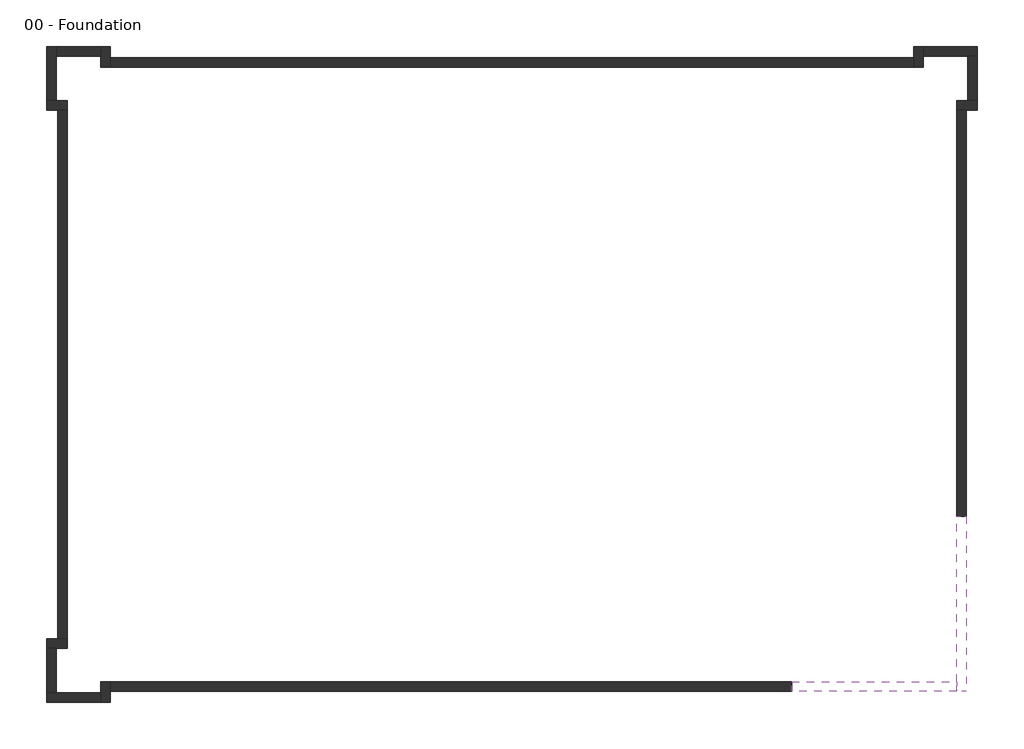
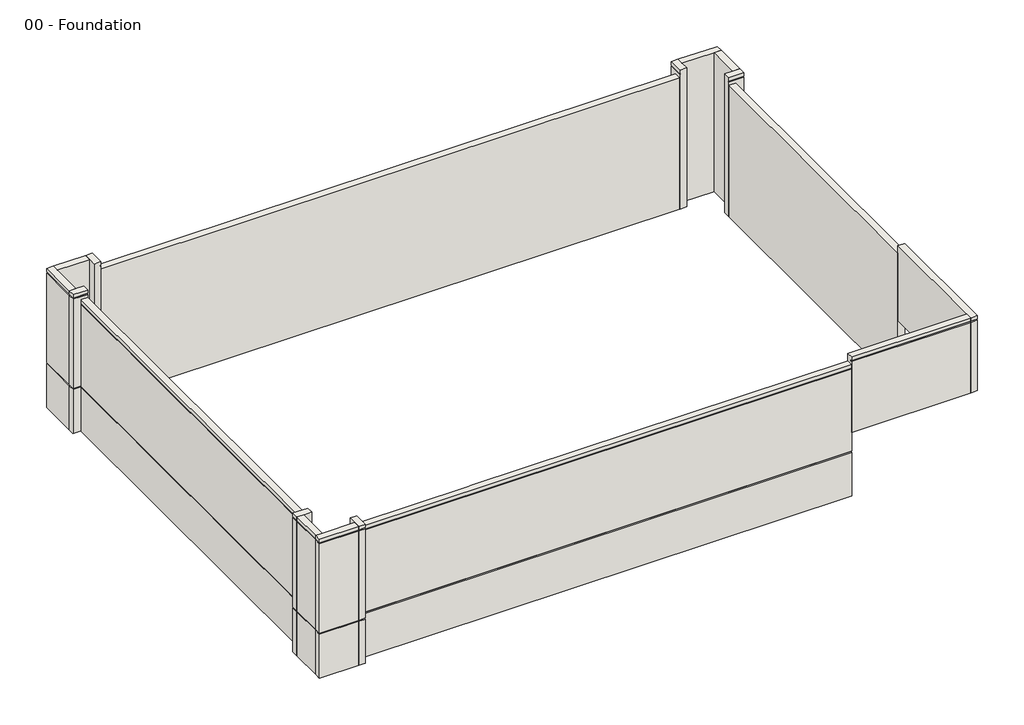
# One storey: 18 walls.
"""IFC4 building model written with IfcOpenShell, lengths in millimetres."""

from ifc_helpers import new_model, si_unit, frame, origin, place, context, project, spatial, polyline, outline, extrude, faceted_brep, element, save

model = new_model("IFC4")

# Units and contexts
model_context = context("Model", 3, world=origin())
ifc_project = project(units=[si_unit("LENGTHUNIT", "METRE", prefix="MILLI")], contexts=[model_context])

# Site, building, storey
site = spatial("IfcSite", under=ifc_project)
building = spatial("IfcBuilding", under=site)
storey = spatial("IfcBuildingStorey", under=building, Name="00 - Foundation", Elevation=-1250.0)

# Walls
placement = place(None, origin())
element("IfcWall", 1, ObjectType="Exterior - Render on Brick on Block @ Entry", at=placement, inside=storey, context=model_context, shape_type="Brep", body=[
    faceted_brep([(18351.5272279, -6481.9313057, 3000.0), (18351.5272279, -13977.9313057, 3000.0), (18351.5272279, -14406.9313057, 3000.0), (18351.5272279, -14406.9313057, 7700.0), (18351.5272279, -14331.9313057, 7700.0), (18351.5272279, -14331.9313057, 7775.0), (18351.5272279, -14406.9313057, 7775.0), (18351.5272279, -14406.9313057, 8000.0), (18351.5272279, -13977.9313057, 8000.0), (18351.5272279, -6481.9313057, 8000.0), (18351.5272279, -6481.9313057, 7500.0), (18780.5272279, -14406.9313057, 3000.0), (18780.5272279, -6481.9313057, 3000.0), (18780.5272279, -6481.9313057, 7200.0), (18780.5272279, -6481.9313057, 7275.0), (18780.5272279, -6481.9313057, 7500.0), (18780.5272279, -6481.9313057, 7700.0), (18780.5272279, -14406.9313057, 7700.0), (18780.5272279, -6481.9313057, 8000.0), (18780.5272279, -14406.9313057, 8000.0), (18780.5272279, -14406.9313057, 7775.0), (18780.5272279, -6481.9313057, 7775.0), (18705.5272279, -6481.9313057, 7775.0), (18705.5272279, -6481.9313057, 7700.0), (18705.5272279, -14331.9313057, 7775.0), (18705.5272279, -14331.9313057, 7700.0)], [[[0, 1, 2, 3, 4, 5, 6, 7, 8, 9, 10]], [[11, 12, 13, 14, 15, 16, 17]], [[18, 19, 20, 21]], [[2, 1, 0, 12, 11]], [[9, 8, 7, 19, 18]], [[0, 10, 9, 18, 21, 22, 23, 16, 15, 14, 13, 12]], [[24, 22, 21, 20, 6, 5]], [[23, 25, 4, 3, 17, 16]], [[22, 24, 25, 23]], [[2, 11, 17, 3]], [[19, 7, 6, 20]], [[25, 24, 5, 4]]]),
])
element("IfcWall", 2, ObjectType="Exterior - Render on Brick on Block @ Entry", at=placement, inside=storey, context=model_context, shape_type="Brep", body=[
    faceted_brep([(18351.5272279, -13977.9313057, 3000.0), (10855.5272279, -13977.9313057, 3000.0), (10855.5272279, -13977.9313057, 7500.0), (10855.5272279, -13977.9313057, 8000.0), (18351.5272279, -13977.9313057, 8000.0), (10855.5272279, -14406.9313057, 3000.0), (18351.5272279, -14406.9313057, 3000.0), (18351.5272279, -14406.9313057, 7700.0), (10855.5272279, -14406.9313057, 7700.0), (10855.5272279, -14406.9313057, 7500.0), (10855.5272279, -14406.9313057, 7275.0), (10855.5272279, -14406.9313057, 7200.0), (18351.5272279, -14406.9313057, 8000.0), (10855.5272279, -14406.9313057, 8000.0), (10855.5272279, -14406.9313057, 7775.0), (18351.5272279, -14406.9313057, 7775.0), (10855.5272279, -14331.9313057, 7700.0), (10855.5272279, -14331.9313057, 7775.0), (18351.5272279, -14331.9313057, 7700.0), (18351.5272279, -14331.9313057, 7775.0)], [[[0, 1, 2, 3, 4]], [[5, 6, 7, 8, 9, 10, 11]], [[12, 13, 14, 15]], [[1, 0, 6, 5]], [[3, 2, 1, 5, 11, 10, 9, 8, 16, 17, 14, 13]], [[4, 3, 13, 12]], [[16, 18, 19, 17]], [[0, 4, 12, 15, 19, 18, 7, 6]], [[17, 19, 15, 14]], [[18, 16, 8, 7]]]),
])
element("IfcWall", 3, ObjectType="Exterior - Render on Brick on Block", at=placement, inside=storey, context=model_context, shape_type="Brep", body=[
    faceted_brep([(10855.5272279, -13977.9313057, -1250.0), (-20031.4727721, -13977.9313057, -1250.0), (-20031.4727721, -13977.9313057, 7500.0), (-12988.7227721, -13977.9313057, 7500.0), (-12850.2227721, -13977.9313057, 7500.0), (10855.5272279, -13977.9313057, 7500.0), (10855.5272279, -13977.9313057, 3000.0), (10855.5272279, -14406.9313057, 7500.0), (-20031.4727721, -14406.9313057, 7500.0), (-20031.4727721, -14406.9313057, 7275.0), (10855.5272279, -14406.9313057, 7275.0), (-20031.4727721, -14406.9313057, -1250.0), (10855.5272279, -14406.9313057, -1250.0), (10855.5272279, -14406.9313057, 1675.0), (-20031.4727721, -14406.9313057, 1675.0), (-20031.4727721, -14406.9313057, 1750.0), (10855.5272279, -14406.9313057, 1750.0), (10855.5272279, -14406.9313057, 7200.0), (-20031.4727721, -14406.9313057, 7200.0), (10855.5272279, -14331.9313057, 7275.0), (10855.5272279, -14331.9313057, 7200.0), (10855.5272279, -14331.9313057, 1750.0), (10855.5272279, -14331.9313057, 1675.0), (10855.5272279, -14381.9313057, -1250.0), (-20031.4727721, -14381.9313057, -1250.0), (-20031.4727721, -14331.9313057, 1750.0), (-20031.4727721, -14331.9313057, 1675.0), (-20031.4727721, -14331.9313057, 7275.0), (-20031.4727721, -14331.9313057, 7200.0)], [[[0, 1, 2, 3, 4, 5, 6]], [[7, 8, 9, 10]], [[11, 12, 13, 14]], [[15, 16, 17, 18]], [[5, 4, 3, 2, 8, 7]], [[0, 6, 5, 7, 10, 19, 20, 17, 16, 21, 22, 13, 12, 23]], [[1, 0, 23, 24]], [[23, 12, 11, 24]], [[16, 15, 25, 21]], [[14, 13, 22, 26]], [[22, 21, 25, 26]], [[27, 19, 10, 9]], [[20, 28, 18, 17]], [[19, 27, 28, 20]], [[2, 1, 24, 11, 14, 26, 25, 15, 18, 28, 27, 9, 8]]]),
])
element("IfcWall", 4, ObjectType="Exterior - Render on Brick on Block", at=placement, inside=storey, context=model_context, shape_type="Brep", body=[
    faceted_brep([(-20460.4727721, -13977.9313057, -1250.0), (-20460.4727721, -14477.7313057, -1250.0), (-20460.4727721, -14906.7313057, -1250.0), (-20460.4727721, -14906.7313057, 1675.0), (-20460.4727721, -14831.7313057, 1675.0), (-20460.4727721, -14831.7313057, 1750.0), (-20460.4727721, -14906.7313057, 1750.0), (-20460.4727721, -14906.7313057, 7700.0), (-20460.4727721, -14831.7313057, 7700.0), (-20460.4727721, -14831.7313057, 7775.0), (-20460.4727721, -14906.7313057, 7775.0), (-20460.4727721, -14906.7313057, 8000.0), (-20460.4727721, -14477.7313057, 8000.0), (-20460.4727721, -13977.9313057, 8000.0), (-20031.4727721, -13977.9313057, 8000.0), (-20031.4727721, -14906.7313057, 8000.0), (-20031.4727721, -14906.7313057, 7775.0), (-20031.4727721, -13977.9313057, 7775.0), (-20031.4727721, -14906.7313057, -1250.0), (-20031.4727721, -14406.9313057, -1250.0), (-20031.4727721, -13977.9313057, -1250.0), (-20031.4727721, -13977.9313057, 7500.0), (-20031.4727721, -13977.9313057, 7700.0), (-20031.4727721, -14906.7313057, 7700.0), (-20031.4727721, -14906.7313057, 1750.0), (-20031.4727721, -14406.9313057, 1750.0), (-20031.4727721, -14331.9313057, 1750.0), (-20031.4727721, -14331.9313057, 1675.0), (-20031.4727721, -14406.9313057, 1675.0), (-20031.4727721, -14906.7313057, 1675.0), (-20056.4727721, -13977.9313057, -1250.0), (-20056.4727721, -14906.7313057, -1250.0), (-20106.4727721, -14331.9313057, 1675.0), (-20106.4727721, -14331.9313057, 1750.0), (-20106.4727721, -14831.7313057, 1750.0), (-20106.4727721, -14831.7313057, 1675.0), (-20106.4727721, -14831.7313057, 7775.0), (-20106.4727721, -13977.9313057, 7775.0), (-20106.4727721, -13977.9313057, 7700.0), (-20106.4727721, -14831.7313057, 7700.0)], [[[0, 1, 2, 3, 4, 5, 6, 7, 8, 9, 10, 11, 12, 13]], [[14, 15, 16, 17]], [[18, 19, 20, 21, 22, 23, 24, 25, 26, 27, 28, 29]], [[13, 12, 11, 15, 14]], [[2, 1, 0, 30, 31]], [[32, 33, 34, 35]], [[36, 37, 17, 16, 10, 9]], [[38, 39, 8, 7, 23, 22]], [[37, 36, 39, 38]], [[0, 13, 14, 17, 37, 38, 22, 21, 20, 30]], [[20, 19, 18, 31, 30]], [[34, 33, 26, 25, 24, 6, 5]], [[32, 35, 4, 3, 29, 28, 27]], [[33, 32, 27, 26]], [[15, 11, 10, 16]], [[2, 31, 18, 29, 3]], [[6, 24, 23, 7]], [[35, 34, 5, 4]], [[39, 36, 9, 8]]]),
])
element("IfcWall", 5, ObjectType="Exterior - Render on Brick on Block", at=placement, inside=storey, context=model_context, shape_type="Brep", body=[
    faceted_brep([(-20460.4727721, -14477.7313057, -1250.0), (-22490.4727721, -14477.7313057, -1250.0), (-22919.4727721, -14477.7313057, -1250.0), (-22919.4727721, -14477.7313057, 1675.0), (-22844.4727721, -14477.7313057, 1675.0), (-22844.4727721, -14477.7313057, 1750.0), (-22919.4727721, -14477.7313057, 1750.0), (-22919.4727721, -14477.7313057, 7700.0), (-22844.4727721, -14477.7313057, 7700.0), (-22844.4727721, -14477.7313057, 7775.0), (-22919.4727721, -14477.7313057, 7775.0), (-22919.4727721, -14477.7313057, 8000.0), (-22490.4727721, -14477.7313057, 8000.0), (-20460.4727721, -14477.7313057, 8000.0), (-20460.4727721, -14906.7313057, 8000.0), (-22919.4727721, -14906.7313057, 8000.0), (-22919.4727721, -14906.7313057, 7775.0), (-20460.4727721, -14906.7313057, 7775.0), (-22919.4727721, -14906.7313057, -1250.0), (-20460.4727721, -14906.7313057, -1250.0), (-20460.4727721, -14906.7313057, 1675.0), (-22919.4727721, -14906.7313057, 1675.0), (-22919.4727721, -14906.7313057, 1750.0), (-20460.4727721, -14906.7313057, 1750.0), (-20460.4727721, -14906.7313057, 7700.0), (-22919.4727721, -14906.7313057, 7700.0), (-20460.4727721, -14881.7313057, -1250.0), (-22919.4727721, -14881.7313057, -1250.0), (-22844.4727721, -14831.7313057, 1675.0), (-20460.4727721, -14831.7313057, 1675.0), (-20460.4727721, -14831.7313057, 1750.0), (-22844.4727721, -14831.7313057, 1750.0), (-22844.4727721, -14831.7313057, 7775.0), (-22844.4727721, -14831.7313057, 7700.0), (-20460.4727721, -14831.7313057, 7700.0), (-20460.4727721, -14831.7313057, 7775.0)], [[[0, 1, 2, 3, 4, 5, 6, 7, 8, 9, 10, 11, 12, 13]], [[14, 15, 16, 17]], [[18, 19, 20, 21]], [[22, 23, 24, 25]], [[13, 12, 11, 15, 14]], [[2, 1, 0, 26, 27]], [[28, 29, 30, 31]], [[32, 33, 34, 35]], [[0, 13, 14, 17, 35, 34, 24, 23, 30, 29, 20, 19, 26]], [[19, 18, 27, 26]], [[31, 30, 23, 22, 6, 5]], [[29, 28, 4, 3, 21, 20]], [[9, 32, 35, 17, 16, 10]], [[34, 33, 8, 7, 25, 24]], [[15, 11, 10, 16]], [[2, 27, 18, 21, 3]], [[6, 22, 25, 7]], [[28, 31, 5, 4]], [[33, 32, 9, 8]]]),
])
element("IfcWall", 6, ObjectType="Exterior - Render on Brick on Block", at=placement, inside=storey, context=model_context, shape_type="SweptSolid", body=[
    extrude(outline(polyline([(-1250.0, -22490.4727721), (8000.0, -22490.4727721), (8000.0, -22919.4727721), (7775.0, -22919.4727721), (7775.0, -22844.4727721), (7700.0, -22844.4727721), (7700.0, -22919.4727721), (1750.0, -22919.4727721), (1750.0, -22844.4727721), (1675.0, -22844.4727721), (1675.0, -22919.4727721), (-1250.0, -22919.4727721), (-1250.0, -22894.4727721), (-1250.0, -22490.4727721)])), frame((0.0, -14477.7313057, 0.0), z_axis=(0.0, 1.0, 0.0), x_axis=(0.0, 0.0, 1.0)), (0.0, 0.0, 1.0), 2030.0),
])
element("IfcWall", 7, ObjectType="Exterior - Render on Brick on Block", at=placement, inside=storey, context=model_context, shape_type="Brep", body=[
    faceted_brep([(-22919.4727721, -12447.7313057, -1250.0), (-22490.4727721, -12447.7313057, -1250.0), (-21990.4727721, -12447.7313057, -1250.0), (-21990.4727721, -12447.7313057, 8000.0), (-22490.4727721, -12447.7313057, 8000.0), (-22919.4727721, -12447.7313057, 8000.0), (-22919.4727721, -12447.7313057, 7775.0), (-22844.4727721, -12447.7313057, 7775.0), (-22844.4727721, -12447.7313057, 7700.0), (-22919.4727721, -12447.7313057, 7700.0), (-22919.4727721, -12447.7313057, 1750.0), (-22844.4727721, -12447.7313057, 1750.0), (-22844.4727721, -12447.7313057, 1675.0), (-22919.4727721, -12447.7313057, 1675.0), (-22919.4727721, -12018.7313057, 8000.0), (-21990.4727721, -12018.7313057, 8000.0), (-21990.4727721, -12018.7313057, 7775.0), (-22919.4727721, -12018.7313057, 7775.0), (-21990.4727721, -12018.7313057, -1250.0), (-22419.4727721, -12018.7313057, -1250.0), (-22919.4727721, -12018.7313057, -1250.0), (-22919.4727721, -12018.7313057, 1675.0), (-22419.4727721, -12018.7313057, 1675.0), (-22344.4727721, -12018.7313057, 1675.0), (-22344.4727721, -12018.7313057, 1750.0), (-22419.4727721, -12018.7313057, 1750.0), (-22919.4727721, -12018.7313057, 1750.0), (-22919.4727721, -12018.7313057, 7700.0), (-21990.4727721, -12018.7313057, 7700.0), (-21990.4727721, -12018.7313057, 7500.0), (-22919.4727721, -12043.7313057, -1250.0), (-21990.4727721, -12043.7313057, -1250.0), (-22844.4727721, -12093.7313057, 1675.0), (-22844.4727721, -12093.7313057, 1750.0), (-22344.4727721, -12093.7313057, 1750.0), (-22344.4727721, -12093.7313057, 1675.0), (-22844.4727721, -12093.7313057, 7775.0), (-21990.4727721, -12093.7313057, 7775.0), (-21990.4727721, -12093.7313057, 7700.0), (-22844.4727721, -12093.7313057, 7700.0)], [[[0, 1, 2, 3, 4, 5, 6, 7, 8, 9, 10, 11, 12, 13]], [[14, 15, 16, 17]], [[18, 19, 20, 21, 22, 23, 24, 25, 26, 27, 28, 29]], [[5, 4, 3, 15, 14]], [[2, 1, 0, 30, 31]], [[32, 33, 34, 35]], [[36, 37, 38, 39]], [[5, 14, 17, 6]], [[30, 0, 13, 21, 20]], [[26, 10, 9, 27]], [[20, 19, 18, 31, 30]], [[34, 33, 11, 10, 26, 25, 24]], [[32, 35, 23, 22, 21, 13, 12]], [[33, 32, 12, 11]], [[37, 36, 7, 6, 17, 16]], [[39, 38, 28, 27, 9, 8]], [[36, 39, 8, 7]], [[3, 2, 31, 18, 29, 28, 38, 37, 16, 15]], [[35, 34, 24, 23]]]),
])
element("IfcWall", 8, ObjectType="Exterior - Render on Brick on Block", at=placement, inside=storey, context=model_context, shape_type="Brep", body=[
    faceted_brep([(-21990.4727721, -12018.7313057, -1250.0), (-21990.4727721, 11955.0686943, -1250.0), (-21990.4727721, 11955.0686943, 7500.0), (-21990.4727721, -3637.6813057, 7500.0), (-21990.4727721, -3776.1813057, 7500.0), (-21990.4727721, -9826.1813057, 7500.0), (-21990.4727721, -9964.6813057, 7500.0), (-21990.4727721, -12018.7313057, 7500.0), (-22419.4727721, -12018.7313057, 7500.0), (-22419.4727721, 11955.0686943, 7500.0), (-22419.4727721, 11955.0686943, 7275.0), (-22419.4727721, -12018.7313057, 7275.0), (-22419.4727721, 11955.0686943, -1250.0), (-22419.4727721, -12018.7313057, -1250.0), (-22419.4727721, -12018.7313057, 1675.0), (-22419.4727721, 11955.0686943, 1675.0), (-22419.4727721, 11955.0686943, 1750.0), (-22419.4727721, -12018.7313057, 1750.0), (-22419.4727721, -12018.7313057, 7200.0), (-22419.4727721, 11955.0686943, 7200.0), (-22394.4727721, -12018.7313057, -1250.0), (-22394.4727721, 11955.0686943, -1250.0), (-22344.4727721, -12018.7313057, 1675.0), (-22344.4727721, -12018.7313057, 1750.0), (-22344.4727721, 11955.0686943, 1750.0), (-22344.4727721, 11955.0686943, 1675.0), (-22344.4727721, 11955.0686943, 7275.0), (-22344.4727721, -12018.7313057, 7275.0), (-22344.4727721, -12018.7313057, 7200.0), (-22344.4727721, 11955.0686943, 7200.0)], [[[0, 1, 2, 3, 4, 5, 6, 7]], [[8, 9, 10, 11]], [[12, 13, 14, 15]], [[16, 17, 18, 19]], [[7, 6, 5, 4, 3, 2, 9, 8]], [[1, 0, 20, 21]], [[22, 23, 24, 25]], [[26, 27, 11, 10]], [[28, 29, 19, 18]], [[27, 26, 29, 28]], [[0, 7, 8, 11, 27, 28, 18, 17, 23, 22, 14, 13, 20]], [[13, 12, 21, 20]], [[17, 16, 24, 23]], [[15, 14, 22, 25]], [[2, 1, 21, 12, 15, 25, 24, 16, 19, 29, 26, 10, 9]]]),
])
element("IfcWall", 9, ObjectType="Exterior - Render on Brick on Block", at=placement, inside=storey, context=model_context, shape_type="Brep", body=[
    faceted_brep([(-21990.4727721, 12384.0686943, -1250.0), (-22490.4727721, 12384.0686943, -1250.0), (-22919.4727721, 12384.0686943, -1250.0), (-22919.4727721, 12384.0686943, 1675.0), (-22844.4727721, 12384.0686943, 1675.0), (-22844.4727721, 12384.0686943, 1750.0), (-22919.4727721, 12384.0686943, 1750.0), (-22919.4727721, 12384.0686943, 7700.0), (-22844.4727721, 12384.0686943, 7700.0), (-22844.4727721, 12384.0686943, 7775.0), (-22919.4727721, 12384.0686943, 7775.0), (-22919.4727721, 12384.0686943, 8000.0), (-22490.4727721, 12384.0686943, 8000.0), (-21990.4727721, 12384.0686943, 8000.0), (-21990.4727721, 11955.0686943, 8000.0), (-22919.4727721, 11955.0686943, 8000.0), (-22919.4727721, 11955.0686943, 7775.0), (-21990.4727721, 11955.0686943, 7775.0), (-22919.4727721, 11955.0686943, -1250.0), (-22419.4727721, 11955.0686943, -1250.0), (-21990.4727721, 11955.0686943, -1250.0), (-21990.4727721, 11955.0686943, 7500.0), (-21990.4727721, 11955.0686943, 7700.0), (-22919.4727721, 11955.0686943, 7700.0), (-22919.4727721, 11955.0686943, 1750.0), (-22419.4727721, 11955.0686943, 1750.0), (-22344.4727721, 11955.0686943, 1750.0), (-22344.4727721, 11955.0686943, 1675.0), (-22419.4727721, 11955.0686943, 1675.0), (-22919.4727721, 11955.0686943, 1675.0), (-21990.4727721, 11980.0686943, -1250.0), (-22919.4727721, 11980.0686943, -1250.0), (-22344.4727721, 12030.0686943, 1675.0), (-22344.4727721, 12030.0686943, 1750.0), (-22844.4727721, 12030.0686943, 1750.0), (-22844.4727721, 12030.0686943, 1675.0), (-22844.4727721, 12030.0686943, 7775.0), (-21990.4727721, 12030.0686943, 7775.0), (-21990.4727721, 12030.0686943, 7700.0), (-22844.4727721, 12030.0686943, 7700.0)], [[[0, 1, 2, 3, 4, 5, 6, 7, 8, 9, 10, 11, 12, 13]], [[14, 15, 16, 17]], [[18, 19, 20, 21, 22, 23, 24, 25, 26, 27, 28, 29]], [[13, 12, 11, 15, 14]], [[2, 1, 0, 30, 31]], [[32, 33, 34, 35]], [[36, 37, 17, 16, 10, 9]], [[38, 39, 8, 7, 23, 22]], [[37, 36, 39, 38]], [[0, 13, 14, 17, 37, 38, 22, 21, 20, 30]], [[20, 19, 18, 31, 30]], [[34, 33, 26, 25, 24, 6, 5]], [[32, 35, 4, 3, 29, 28, 27]], [[33, 32, 27, 26]], [[15, 11, 10, 16]], [[2, 31, 18, 29, 3]], [[6, 24, 23, 7]], [[35, 34, 5, 4]], [[39, 36, 9, 8]]]),
])
element("IfcWall", 10, ObjectType="Exterior - Render on Brick on Block", at=placement, inside=storey, context=model_context, shape_type="Brep", body=[
    faceted_brep([(-22490.4727721, 12384.0686943, -1250.0), (-22490.4727721, 14414.0686943, -1250.0), (-22490.4727721, 14843.0686943, -1250.0), (-22490.4727721, 14843.0686943, 1675.0), (-22490.4727721, 14768.0686943, 1675.0), (-22490.4727721, 14768.0686943, 1750.0), (-22490.4727721, 14843.0686943, 1750.0), (-22490.4727721, 14843.0686943, 7700.0), (-22490.4727721, 14768.0686943, 7700.0), (-22490.4727721, 14768.0686943, 7775.0), (-22490.4727721, 14843.0686943, 7775.0), (-22490.4727721, 14843.0686943, 8000.0), (-22490.4727721, 14414.0686943, 8000.0), (-22490.4727721, 12384.0686943, 8000.0), (-22919.4727721, 12384.0686943, 8000.0), (-22919.4727721, 14843.0686943, 8000.0), (-22919.4727721, 14843.0686943, 7775.0), (-22919.4727721, 12384.0686943, 7775.0), (-22919.4727721, 14843.0686943, -1250.0), (-22919.4727721, 12384.0686943, -1250.0), (-22919.4727721, 12384.0686943, 1675.0), (-22919.4727721, 14843.0686943, 1675.0), (-22919.4727721, 14843.0686943, 1750.0), (-22919.4727721, 12384.0686943, 1750.0), (-22919.4727721, 12384.0686943, 7700.0), (-22919.4727721, 14843.0686943, 7700.0), (-22894.4727721, 12384.0686943, -1250.0), (-22894.4727721, 14843.0686943, -1250.0), (-22844.4727721, 14768.0686943, 1675.0), (-22844.4727721, 12384.0686943, 1675.0), (-22844.4727721, 12384.0686943, 1750.0), (-22844.4727721, 14768.0686943, 1750.0), (-22844.4727721, 14768.0686943, 7775.0), (-22844.4727721, 14768.0686943, 7700.0), (-22844.4727721, 12384.0686943, 7700.0), (-22844.4727721, 12384.0686943, 7775.0)], [[[0, 1, 2, 3, 4, 5, 6, 7, 8, 9, 10, 11, 12, 13]], [[14, 15, 16, 17]], [[18, 19, 20, 21]], [[22, 23, 24, 25]], [[13, 12, 11, 15, 14]], [[2, 1, 0, 26, 27]], [[28, 29, 30, 31]], [[32, 33, 34, 35]], [[0, 13, 14, 17, 35, 34, 24, 23, 30, 29, 20, 19, 26]], [[19, 18, 27, 26]], [[31, 30, 23, 22, 6, 5]], [[29, 28, 4, 3, 21, 20]], [[9, 32, 35, 17, 16, 10]], [[34, 33, 8, 7, 25, 24]], [[15, 11, 10, 16]], [[2, 27, 18, 21, 3]], [[6, 22, 25, 7]], [[28, 31, 5, 4]], [[33, 32, 9, 8]]]),
])
element("IfcWall", 11, ObjectType="Exterior - Render on Brick on Block", at=placement, inside=storey, context=model_context, shape_type="SweptSolid", body=[
    extrude(outline(polyline([(14414.0686943, -1250.0), (14414.0686943, 8000.0), (14843.0686943, 8000.0), (14843.0686943, 7775.0), (14768.0686943, 7775.0), (14768.0686943, 7700.0), (14843.0686943, 7700.0), (14843.0686943, 1750.0), (14768.0686943, 1750.0), (14768.0686943, 1675.0), (14843.0686943, 1675.0), (14843.0686943, -1250.0), (14818.0686943, -1250.0), (14414.0686943, -1250.0)])), frame((-22490.4727721, 0.0, 0.0), z_axis=(1.0, 0.0, 0.0), x_axis=(0.0, 1.0, 0.0)), (0.0, 0.0, 1.0), 2030.0),
])
element("IfcWall", 12, ObjectType="Exterior - Render on Brick on Block", at=placement, inside=storey, context=model_context, shape_type="Brep", body=[
    faceted_brep([(-20460.4727721, 14843.0686943, -1250.0), (-20460.4727721, 14414.0686943, -1250.0), (-20460.4727721, 13914.0686943, -1250.0), (-20460.4727721, 13914.0686943, 8000.0), (-20460.4727721, 14414.0686943, 8000.0), (-20460.4727721, 14843.0686943, 8000.0), (-20460.4727721, 14843.0686943, 7775.0), (-20460.4727721, 14768.0686943, 7775.0), (-20460.4727721, 14768.0686943, 7700.0), (-20460.4727721, 14843.0686943, 7700.0), (-20460.4727721, 14843.0686943, 1750.0), (-20460.4727721, 14768.0686943, 1750.0), (-20460.4727721, 14768.0686943, 1675.0), (-20460.4727721, 14843.0686943, 1675.0), (-20031.4727721, 14843.0686943, 8000.0), (-20031.4727721, 13914.0686943, 8000.0), (-20031.4727721, 13914.0686943, 7775.0), (-20031.4727721, 14843.0686943, 7775.0), (-20031.4727721, 13914.0686943, -1250.0), (-20031.4727721, 14343.0686943, -1250.0), (-20031.4727721, 14843.0686943, -1250.0), (-20031.4727721, 14843.0686943, 1675.0), (-20031.4727721, 14343.0686943, 1675.0), (-20031.4727721, 14268.0686943, 1675.0), (-20031.4727721, 14268.0686943, 1750.0), (-20031.4727721, 14343.0686943, 1750.0), (-20031.4727721, 14843.0686943, 1750.0), (-20031.4727721, 14843.0686943, 7700.0), (-20031.4727721, 13914.0686943, 7700.0), (-20031.4727721, 13914.0686943, 7500.0), (-20056.4727721, 14843.0686943, -1250.0), (-20056.4727721, 13914.0686943, -1250.0), (-20106.4727721, 14768.0686943, 1675.0), (-20106.4727721, 14768.0686943, 1750.0), (-20106.4727721, 14268.0686943, 1750.0), (-20106.4727721, 14268.0686943, 1675.0), (-20106.4727721, 14768.0686943, 7775.0), (-20106.4727721, 13914.0686943, 7775.0), (-20106.4727721, 13914.0686943, 7700.0), (-20106.4727721, 14768.0686943, 7700.0)], [[[0, 1, 2, 3, 4, 5, 6, 7, 8, 9, 10, 11, 12, 13]], [[14, 15, 16, 17]], [[18, 19, 20, 21, 22, 23, 24, 25, 26, 27, 28, 29]], [[5, 4, 3, 15, 14]], [[2, 1, 0, 30, 31]], [[32, 33, 34, 35]], [[36, 37, 38, 39]], [[5, 14, 17, 6]], [[30, 0, 13, 21, 20]], [[26, 10, 9, 27]], [[20, 19, 18, 31, 30]], [[34, 33, 11, 10, 26, 25, 24]], [[32, 35, 23, 22, 21, 13, 12]], [[33, 32, 12, 11]], [[37, 36, 7, 6, 17, 16]], [[39, 38, 28, 27, 9, 8]], [[36, 39, 8, 7]], [[3, 2, 31, 18, 29, 28, 38, 37, 16, 15]], [[35, 34, 24, 23]]]),
])
element("IfcWall", 13, ObjectType="Exterior - Render on Brick on Block", at=placement, inside=storey, context=model_context, shape_type="Brep", body=[
    faceted_brep([(-20031.4727721, 13914.0686943, -1250.0), (16392.5272279, 13914.0686943, -1250.0), (16392.5272279, 13914.0686943, 7500.0), (-14950.2227721, 13914.0686943, 7500.0), (-15088.7227721, 13914.0686943, 7500.0), (-20031.4727721, 13914.0686943, 7500.0), (-20031.4727721, 14343.0686943, 7500.0), (16392.5272279, 14343.0686943, 7500.0), (16392.5272279, 14343.0686943, 7275.0), (-20031.4727721, 14343.0686943, 7275.0), (16392.5272279, 14343.0686943, -1250.0), (-20031.4727721, 14343.0686943, -1250.0), (-20031.4727721, 14343.0686943, 1675.0), (16392.5272279, 14343.0686943, 1675.0), (16392.5272279, 14343.0686943, 1750.0), (-20031.4727721, 14343.0686943, 1750.0), (-20031.4727721, 14343.0686943, 7200.0), (16392.5272279, 14343.0686943, 7200.0), (-20031.4727721, 14318.0686943, -1250.0), (16392.5272279, 14318.0686943, -1250.0), (-20031.4727721, 14268.0686943, 1675.0), (-20031.4727721, 14268.0686943, 1750.0), (16392.5272279, 14268.0686943, 1750.0), (16392.5272279, 14268.0686943, 1675.0), (16392.5272279, 14268.0686943, 7275.0), (-20031.4727721, 14268.0686943, 7275.0), (-20031.4727721, 14268.0686943, 7200.0), (16392.5272279, 14268.0686943, 7200.0)], [[[0, 1, 2, 3, 4, 5]], [[6, 7, 8, 9]], [[10, 11, 12, 13]], [[14, 15, 16, 17]], [[5, 4, 3, 2, 7, 6]], [[1, 0, 18, 19]], [[20, 21, 22, 23]], [[24, 25, 9, 8]], [[26, 27, 17, 16]], [[25, 24, 27, 26]], [[0, 5, 6, 9, 25, 26, 16, 15, 21, 20, 12, 11, 18]], [[11, 10, 19, 18]], [[15, 14, 22, 21]], [[13, 12, 20, 23]], [[2, 1, 19, 10, 13, 23, 22, 14, 17, 27, 24, 8, 7]]]),
])
element("IfcWall", 14, ObjectType="Exterior - Render on Brick on Block", at=placement, inside=storey, context=model_context, shape_type="Brep", body=[
    faceted_brep([(16821.5272279, 13914.0686943, -1250.0), (16821.5272279, 14414.0686943, -1250.0), (16821.5272279, 14843.0686943, -1250.0), (16821.5272279, 14843.0686943, 1675.0), (16821.5272279, 14768.0686943, 1675.0), (16821.5272279, 14768.0686943, 1750.0), (16821.5272279, 14843.0686943, 1750.0), (16821.5272279, 14843.0686943, 7700.0), (16821.5272279, 14768.0686943, 7700.0), (16821.5272279, 14768.0686943, 7775.0), (16821.5272279, 14843.0686943, 7775.0), (16821.5272279, 14843.0686943, 8000.0), (16821.5272279, 14414.0686943, 8000.0), (16821.5272279, 13914.0686943, 8000.0), (16392.5272279, 13914.0686943, 8000.0), (16392.5272279, 14843.0686943, 8000.0), (16392.5272279, 14843.0686943, 7775.0), (16392.5272279, 13914.0686943, 7775.0), (16392.5272279, 14843.0686943, -1250.0), (16392.5272279, 14343.0686943, -1250.0), (16392.5272279, 13914.0686943, -1250.0), (16392.5272279, 13914.0686943, 7500.0), (16392.5272279, 13914.0686943, 7700.0), (16392.5272279, 14843.0686943, 7700.0), (16392.5272279, 14843.0686943, 1750.0), (16392.5272279, 14343.0686943, 1750.0), (16392.5272279, 14268.0686943, 1750.0), (16392.5272279, 14268.0686943, 1675.0), (16392.5272279, 14343.0686943, 1675.0), (16392.5272279, 14843.0686943, 1675.0), (16417.5272279, 13914.0686943, -1250.0), (16417.5272279, 14843.0686943, -1250.0), (16467.5272279, 14268.0686943, 1675.0), (16467.5272279, 14268.0686943, 1750.0), (16467.5272279, 14768.0686943, 1750.0), (16467.5272279, 14768.0686943, 1675.0), (16467.5272279, 14768.0686943, 7775.0), (16467.5272279, 13914.0686943, 7775.0), (16467.5272279, 13914.0686943, 7700.0), (16467.5272279, 14768.0686943, 7700.0)], [[[0, 1, 2, 3, 4, 5, 6, 7, 8, 9, 10, 11, 12, 13]], [[14, 15, 16, 17]], [[18, 19, 20, 21, 22, 23, 24, 25, 26, 27, 28, 29]], [[13, 12, 11, 15, 14]], [[2, 1, 0, 30, 31]], [[32, 33, 34, 35]], [[36, 37, 17, 16, 10, 9]], [[38, 39, 8, 7, 23, 22]], [[37, 36, 39, 38]], [[0, 13, 14, 17, 37, 38, 22, 21, 20, 30]], [[20, 19, 18, 31, 30]], [[34, 33, 26, 25, 24, 6, 5]], [[32, 35, 4, 3, 29, 28, 27]], [[33, 32, 27, 26]], [[15, 11, 10, 16]], [[2, 31, 18, 29, 3]], [[6, 24, 23, 7]], [[35, 34, 5, 4]], [[39, 36, 9, 8]]]),
])
element("IfcWall", 15, ObjectType="Exterior - Render on Brick on Block", at=placement, inside=storey, context=model_context, shape_type="Brep", body=[
    faceted_brep([(16821.5272279, 14414.0686943, -1250.0), (18851.5272279, 14414.0686943, -1250.0), (19280.5272279, 14414.0686943, -1250.0), (19280.5272279, 14414.0686943, 1675.0), (19205.5272279, 14414.0686943, 1675.0), (19205.5272279, 14414.0686943, 1750.0), (19280.5272279, 14414.0686943, 1750.0), (19280.5272279, 14414.0686943, 7700.0), (19205.5272279, 14414.0686943, 7700.0), (19205.5272279, 14414.0686943, 7775.0), (19280.5272279, 14414.0686943, 7775.0), (19280.5272279, 14414.0686943, 8000.0), (18851.5272279, 14414.0686943, 8000.0), (16821.5272279, 14414.0686943, 8000.0), (16821.5272279, 14843.0686943, 8000.0), (19280.5272279, 14843.0686943, 8000.0), (19280.5272279, 14843.0686943, 7775.0), (16821.5272279, 14843.0686943, 7775.0), (19280.5272279, 14843.0686943, -1250.0), (16821.5272279, 14843.0686943, -1250.0), (16821.5272279, 14843.0686943, 1675.0), (19280.5272279, 14843.0686943, 1675.0), (19280.5272279, 14843.0686943, 1750.0), (16821.5272279, 14843.0686943, 1750.0), (16821.5272279, 14843.0686943, 7700.0), (19280.5272279, 14843.0686943, 7700.0), (16821.5272279, 14818.0686943, -1250.0), (19280.5272279, 14818.0686943, -1250.0), (19205.5272279, 14768.0686943, 1675.0), (16821.5272279, 14768.0686943, 1675.0), (16821.5272279, 14768.0686943, 1750.0), (19205.5272279, 14768.0686943, 1750.0), (19205.5272279, 14768.0686943, 7775.0), (19205.5272279, 14768.0686943, 7700.0), (16821.5272279, 14768.0686943, 7700.0), (16821.5272279, 14768.0686943, 7775.0)], [[[0, 1, 2, 3, 4, 5, 6, 7, 8, 9, 10, 11, 12, 13]], [[14, 15, 16, 17]], [[18, 19, 20, 21]], [[22, 23, 24, 25]], [[13, 12, 11, 15, 14]], [[2, 1, 0, 26, 27]], [[28, 29, 30, 31]], [[32, 33, 34, 35]], [[0, 13, 14, 17, 35, 34, 24, 23, 30, 29, 20, 19, 26]], [[19, 18, 27, 26]], [[31, 30, 23, 22, 6, 5]], [[29, 28, 4, 3, 21, 20]], [[9, 32, 35, 17, 16, 10]], [[34, 33, 8, 7, 25, 24]], [[15, 11, 10, 16]], [[2, 27, 18, 21, 3]], [[6, 22, 25, 7]], [[28, 31, 5, 4]], [[33, 32, 9, 8]]]),
])
element("IfcWall", 16, ObjectType="Exterior - Render on Brick on Block", at=placement, inside=storey, context=model_context, shape_type="SweptSolid", body=[
    extrude(outline(polyline([(8000.0, 18851.5272279), (-1250.0, 18851.5272279), (-1250.0, 19255.5272279), (-1250.0, 19280.5272279), (1675.0, 19280.5272279), (1675.0, 19205.5272279), (1750.0, 19205.5272279), (1750.0, 19280.5272279), (7700.0, 19280.5272279), (7700.0, 19205.5272279), (7775.0, 19205.5272279), (7775.0, 19280.5272279), (8000.0, 19280.5272279), (8000.0, 18851.5272279)])), frame((0.0, 12384.0686943, 0.0), z_axis=(0.0, 1.0, 0.0), x_axis=(0.0, 0.0, 1.0)), (0.0, 0.0, 1.0), 2030.0),
])
element("IfcWall", 17, ObjectType="Exterior - Render on Brick on Block", at=placement, inside=storey, context=model_context, shape_type="Brep", body=[
    faceted_brep([(19280.5272279, 12384.0686943, -1250.0), (18851.5272279, 12384.0686943, -1250.0), (18351.5272279, 12384.0686943, -1250.0), (18351.5272279, 12384.0686943, 8000.0), (18851.5272279, 12384.0686943, 8000.0), (19280.5272279, 12384.0686943, 8000.0), (19280.5272279, 12384.0686943, 7775.0), (19205.5272279, 12384.0686943, 7775.0), (19205.5272279, 12384.0686943, 7700.0), (19280.5272279, 12384.0686943, 7700.0), (19280.5272279, 12384.0686943, 1750.0), (19205.5272279, 12384.0686943, 1750.0), (19205.5272279, 12384.0686943, 1675.0), (19280.5272279, 12384.0686943, 1675.0), (19280.5272279, 11955.0686943, 8000.0), (18351.5272279, 11955.0686943, 8000.0), (18351.5272279, 11955.0686943, 7775.0), (19280.5272279, 11955.0686943, 7775.0), (18351.5272279, 11955.0686943, -1250.0), (18780.5272279, 11955.0686943, -1250.0), (19280.5272279, 11955.0686943, -1250.0), (19280.5272279, 11955.0686943, 1675.0), (18780.5272279, 11955.0686943, 1675.0), (18705.5272279, 11955.0686943, 1675.0), (18705.5272279, 11955.0686943, 1750.0), (18780.5272279, 11955.0686943, 1750.0), (19280.5272279, 11955.0686943, 1750.0), (19280.5272279, 11955.0686943, 7700.0), (18351.5272279, 11955.0686943, 7700.0), (18351.5272279, 11955.0686943, 7500.0), (19280.5272279, 11980.0686943, -1250.0), (18351.5272279, 11980.0686943, -1250.0), (19205.5272279, 12030.0686943, 1675.0), (19205.5272279, 12030.0686943, 1750.0), (18705.5272279, 12030.0686943, 1750.0), (18705.5272279, 12030.0686943, 1675.0), (19205.5272279, 12030.0686943, 7775.0), (18351.5272279, 12030.0686943, 7775.0), (18351.5272279, 12030.0686943, 7700.0), (19205.5272279, 12030.0686943, 7700.0)], [[[0, 1, 2, 3, 4, 5, 6, 7, 8, 9, 10, 11, 12, 13]], [[14, 15, 16, 17]], [[18, 19, 20, 21, 22, 23, 24, 25, 26, 27, 28, 29]], [[5, 4, 3, 15, 14]], [[2, 1, 0, 30, 31]], [[32, 33, 34, 35]], [[36, 37, 38, 39]], [[5, 14, 17, 6]], [[30, 0, 13, 21, 20]], [[26, 10, 9, 27]], [[20, 19, 18, 31, 30]], [[34, 33, 11, 10, 26, 25, 24]], [[32, 35, 23, 22, 21, 13, 12]], [[33, 32, 12, 11]], [[37, 36, 7, 6, 17, 16]], [[39, 38, 28, 27, 9, 8]], [[36, 39, 8, 7]], [[3, 2, 31, 18, 29, 28, 38, 37, 16, 15]], [[35, 34, 24, 23]]]),
])
element("IfcWall", 18, ObjectType="Exterior - Render on Brick on Block", at=placement, inside=storey, context=model_context, shape_type="Brep", body=[
    faceted_brep([(18351.5272279, 11955.0686943, -1250.0), (18351.5272279, -6481.9313057, -1250.0), (18351.5272279, -6481.9313057, 3000.0), (18351.5272279, -6481.9313057, 7500.0), (18351.5272279, 11955.0686943, 7500.0), (18780.5272279, 11955.0686943, 7500.0), (18780.5272279, -6481.9313057, 7500.0), (18780.5272279, -6481.9313057, 7275.0), (18780.5272279, 11955.0686943, 7275.0), (18780.5272279, -6481.9313057, -1250.0), (18780.5272279, 11955.0686943, -1250.0), (18780.5272279, 11955.0686943, 1675.0), (18780.5272279, -6481.9313057, 1675.0), (18780.5272279, -6481.9313057, 1750.0), (18780.5272279, 11955.0686943, 1750.0), (18780.5272279, 11955.0686943, 7200.0), (18780.5272279, -6481.9313057, 7200.0), (18755.5272279, -6481.9313057, -1250.0), (18705.5272279, -6481.9313057, 1675.0), (18705.5272279, -6481.9313057, 1750.0), (18705.5272279, -6481.9313057, 7200.0), (18705.5272279, -6481.9313057, 7275.0), (18755.5272279, 11955.0686943, -1250.0), (18705.5272279, 11955.0686943, 1675.0), (18705.5272279, 11955.0686943, 1750.0), (18705.5272279, 11955.0686943, 7275.0), (18705.5272279, 11955.0686943, 7200.0)], [[[0, 1, 2, 3, 4]], [[5, 6, 7, 8]], [[9, 10, 11, 12]], [[13, 14, 15, 16]], [[3, 2, 1, 17, 9, 12, 18, 19, 13, 16, 20, 21, 7, 6]], [[4, 3, 6, 5]], [[1, 0, 22, 17]], [[19, 18, 23, 24]], [[21, 25, 8, 7]], [[26, 20, 16, 15]], [[25, 21, 20, 26]], [[0, 4, 5, 8, 25, 26, 15, 14, 24, 23, 11, 10, 22]], [[10, 9, 17, 22]], [[19, 24, 14, 13]], [[23, 18, 12, 11]]]),
])

save(model, "model.ifc")
